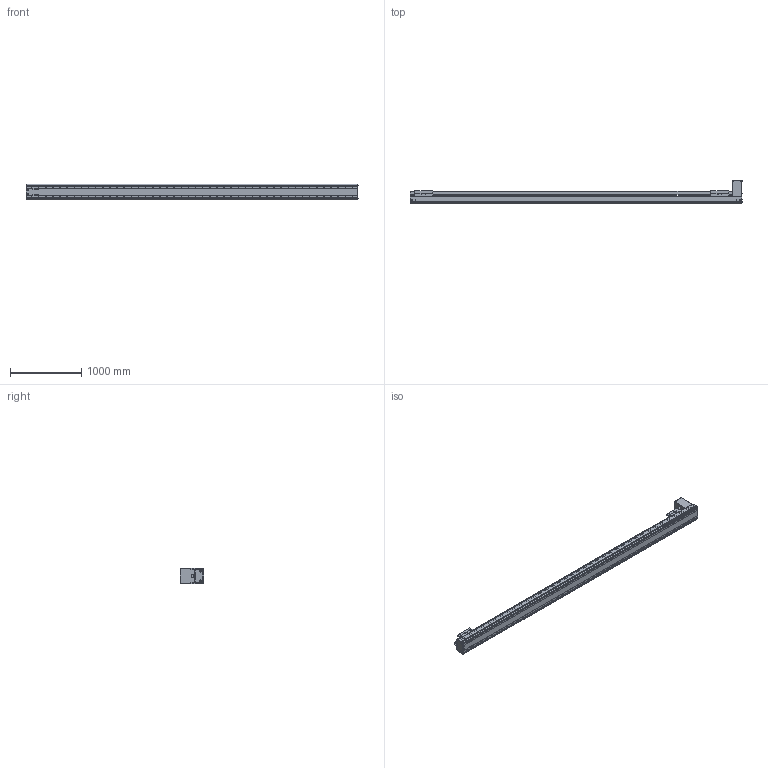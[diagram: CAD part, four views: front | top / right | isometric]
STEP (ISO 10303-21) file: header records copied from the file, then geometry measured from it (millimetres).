
FILE_DESCRIPTION((''),'2;1');
FILE_NAME('BE60J-BT-M19N-X15_IGS_PRT','2017-06-18T',(' '),(''),'PRO/ENGINEER BY PARAMETRIC TECHNOLOGY CORPORATION, 2015030','PRO/ENGINEER BY PARAMETRIC TECHNOLOGY CORPORATION, 2015030','');
FILE_SCHEMA(('CONFIG_CONTROL_DESIGN'));
Products named in the file (1): BE60J-BT-M19N-X15_IGS_PRT
Bounding box: 4654.4 x 327.5 x 214 mm (x, y, z)
Volume: 35805386.3 mm3; surface area: 10917272.4 mm2
Topology: 5 solids, 361 shells, 3387 faces, 10017 edges, 6689 vertices
Faces by surface type: cylinder 1912, plane 1107, cone 272, sphere 48, torus 48
Entity records: 117199 total; most frequent: CARTESIAN_POINT 27701, DIRECTION 18423, ORIENTED_EDGE 17912, EDGE_CURVE 9676, AXIS2_PLACEMENT_3D 7091, VERTEX_POINT 6644, EDGE_LOOP 4318, VECTOR 4241
